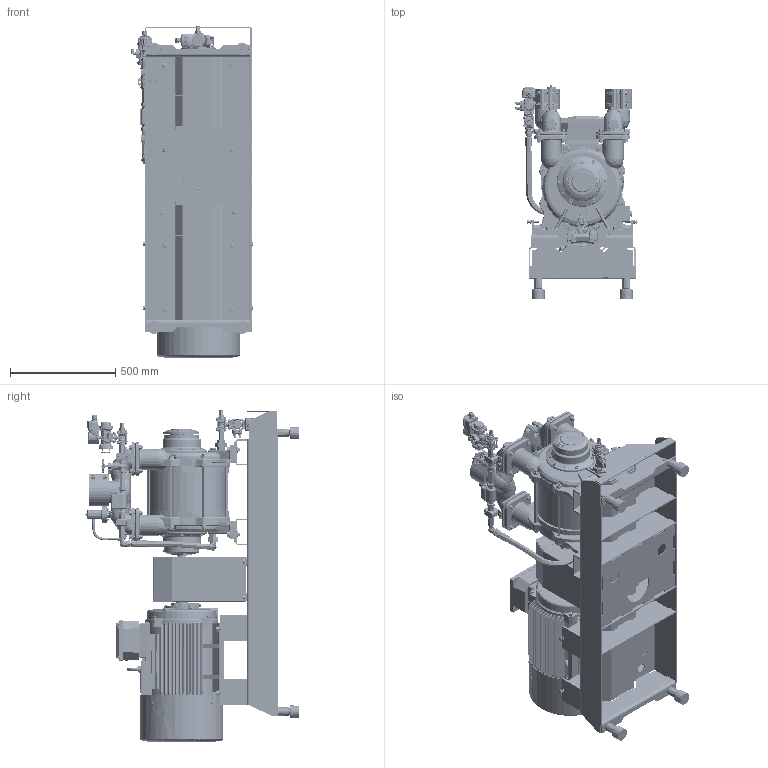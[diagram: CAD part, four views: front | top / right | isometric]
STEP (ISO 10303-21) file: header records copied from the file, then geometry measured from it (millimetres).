
FILE_DESCRIPTION(/* description */ (''),/* implementation_level */ '2;1');
FILE_NAME(/* name */ '1700147.stp',/* time_stamp */ '2025-05-02T08:31:51+02:00',/* author */ ('JJ'),/* organization */ (''),/* preprocessor_version */ 'ST-DEVELOPER v20',/* originating_system */ 'Autodesk Inventor 2025',/* authorisation */ '');
FILE_SCHEMA (('AUTOMOTIVE_DESIGN { 1 0 10303 214 3 1 1 }'));
Products named in the file (1): 1700147
Bounding box: 583.35 x 1019 x 1580.64 mm (x, y, z)
Volume: 97540522.3 mm3; surface area: 13105716.2 mm2
Topology: 231 solids, 231 shells, 25465 faces, 65633 edges, 41669 vertices
Faces by surface type: plane 11961, cylinder 5352, bspline 4155, cone 2202, torus 1608, sphere 187
Full cylindrical faces by diameter (mm): 0.8 x1, 0.847 x2, 0.857 x2, 1.656 x4, 1.7 x4, 1.8 x4, 2 x20, 2.2 x1, 2.5 x8, 3 x4, 3.2 x2, 3.3 x8, 3.6 x4, 4 x4, 4.134 x8, 4.2 x16, 4.3 x8, 4.45 x3, 4.567 x8, 4.917 x15, 4.92 x4, 5 x12, 5.3 x8, 5.6 x16, 6 x50, 6.1 x1, 6.4 x9, 6.5 x12, 6.647 x2, 6.7 x16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
Entity records: 1197556 total; most frequent: CARTESIAN_POINT 580076, ORIENTED_EDGE 130818, DIRECTION 111111, EDGE_CURVE 65409, VERTEX_POINT 41683, AXIS2_PLACEMENT_3D 38434, LINE 34243, VECTOR 34243
